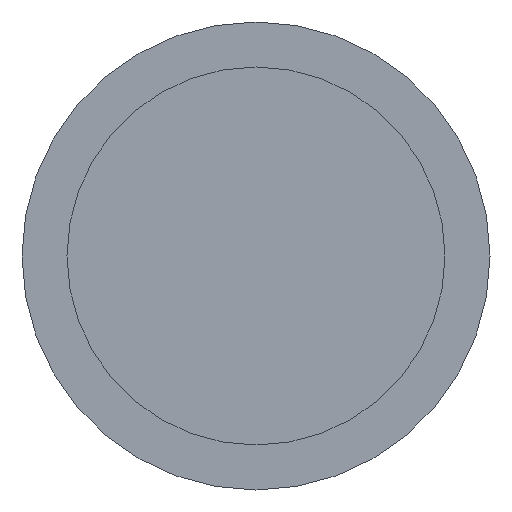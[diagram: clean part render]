
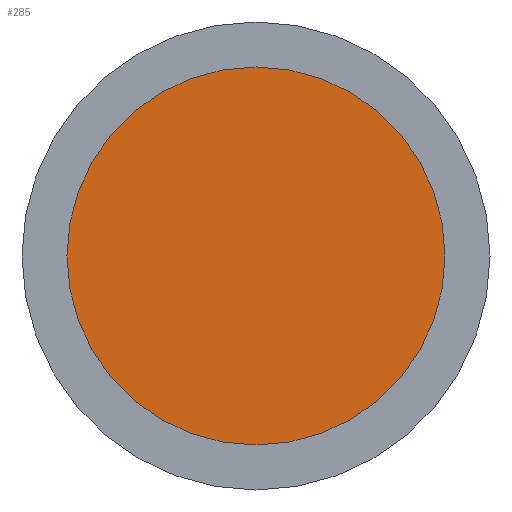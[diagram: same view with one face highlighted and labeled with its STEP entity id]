
A CAD part, front view. The second image highlights one B-rep face of the part: STEP entity #285.
In plain terms, the highlighted planar face has unit normal (0, -1, 0).
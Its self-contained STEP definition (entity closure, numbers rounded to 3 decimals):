
#129 = CYLINDRICAL_SURFACE('',#130,21.);
#130 = AXIS2_PLACEMENT_3D('',#131,#132,#133);
#131 = CARTESIAN_POINT('',(170.,-12.,33.));
#132 = DIRECTION('',(0.,-1.,0.));
#133 = DIRECTION('',(1.,0.,0.));
#181 = VERTEX_POINT('',#182);
#182 = CARTESIAN_POINT('',(191.,-9.2,33.));
#203 = EDGE_CURVE('',#181,#181,#204,.T.);
#204 = SURFACE_CURVE('',#205,(#210,#217),.PCURVE_S1.);
#205 = CIRCLE('',#206,21.);
#206 = AXIS2_PLACEMENT_3D('',#207,#208,#209);
#207 = CARTESIAN_POINT('',(170.,-9.2,33.));
#208 = DIRECTION('',(0.,-1.,0.));
#209 = DIRECTION('',(1.,0.,0.));
#210 = PCURVE('',#129,#211);
#211 = DEFINITIONAL_REPRESENTATION('',(#212),#216);
#212 = LINE('',#213,#214);
#213 = CARTESIAN_POINT('',(0.,-2.8));
#214 = VECTOR('',#215,1.);
#215 = DIRECTION('',(1.,0.));
#216 = ( GEOMETRIC_REPRESENTATION_CONTEXT(2) 
PARAMETRIC_REPRESENTATION_CONTEXT() REPRESENTATION_CONTEXT('2D SPACE',''
  ) );
#217 = PCURVE('',#218,#223);
#218 = PLANE('',#219);
#219 = AXIS2_PLACEMENT_3D('',#220,#221,#222);
#220 = CARTESIAN_POINT('',(170.,-9.2,33.));
#221 = DIRECTION('',(-0.,-1.,-0.));
#222 = DIRECTION('',(0.,0.,-1.));
#223 = DEFINITIONAL_REPRESENTATION('',(#224),#228);
#224 = CIRCLE('',#225,21.);
#225 = AXIS2_PLACEMENT_2D('',#226,#227);
#226 = CARTESIAN_POINT('',(0.,0.));
#227 = DIRECTION('',(0.,1.));
#228 = ( GEOMETRIC_REPRESENTATION_CONTEXT(2) 
PARAMETRIC_REPRESENTATION_CONTEXT() REPRESENTATION_CONTEXT('2D SPACE',''
  ) );
#285 = ADVANCED_FACE('',(#286),#218,.T.);
#286 = FACE_BOUND('',#287,.T.);
#287 = EDGE_LOOP('',(#288));
#288 = ORIENTED_EDGE('',*,*,#203,.T.);
